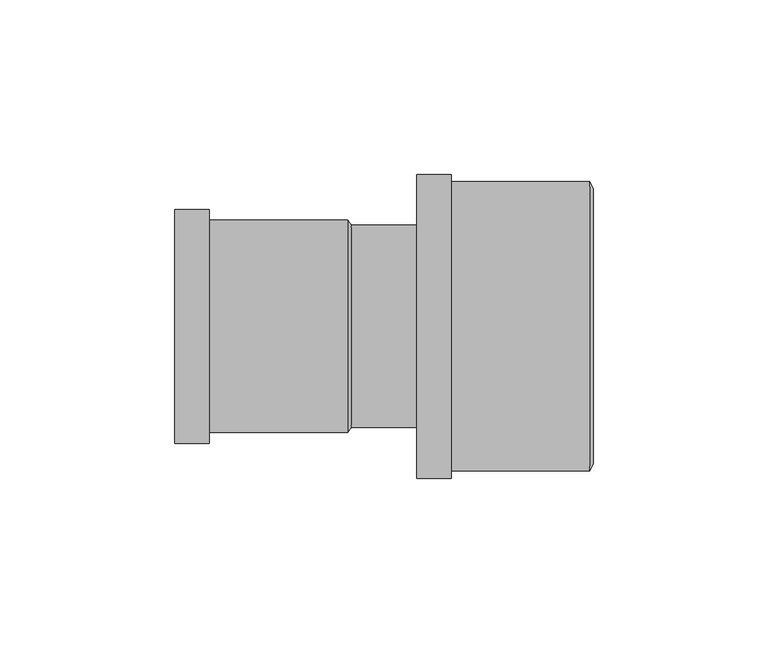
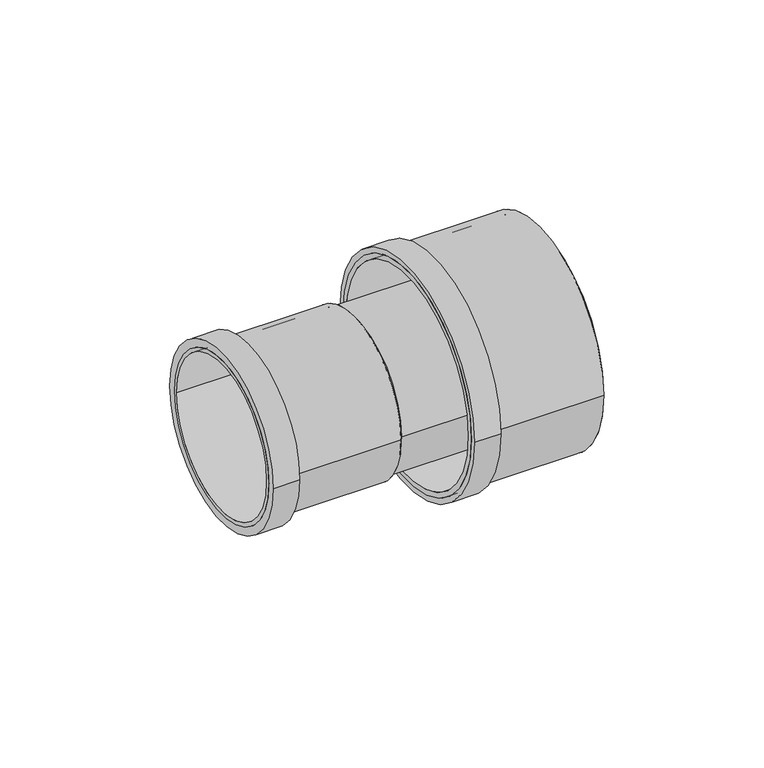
"""IFC4 building model written with IfcOpenShell, lengths in millimetres: pipe fitting geometry, Superdrain SKAM Single socket : Superdrain SKAM Single socket."""

import ifcopenshell
import ifcopenshell.guid

model = None  # the IFC model being written
_history = None  # IfcOwnerHistory: only IFC2X3 demands one
_inside = {}  # id of a spatial element -> (the spatial element, [elements in it])
_under = {}  # id of a project, library or spatial element -> (it, [spatial elements below it])
_declared = {}  # id of a project -> (the project, [libraries it declares])
_typed = {}  # id of a type object -> (the type object, [elements of that type])
_made_of = {}  # id of a material, layer set ... -> (it, [elements and type objects made of it])


def new_model(schema):
    """Start an empty IFC model of exactly this schema.

    Asked for "IFC4X3", IfcOpenShell would pick the latest addendum, in which some entities
    have other attributes; the version numbers below select the first issue.
    IFC2X3 requires an IfcOwnerHistory on every rooted entity: one is made here for all.
    """
    global model, _history
    if schema == "IFC4X3":
        model = ifcopenshell.file(schema_version=(4, 3, 0, 0))
    else:
        model = ifcopenshell.file(schema=schema)
    _inside.clear()
    _under.clear()
    _declared.clear()
    _typed.clear()
    _made_of.clear()
    _history = None
    if model.schema == "IFC2X3":
        org = make("IfcOrganization", Name="unknown")
        user = make(
            "IfcPersonAndOrganization",
            ThePerson=make("IfcPerson", FamilyName="unknown"),
            TheOrganization=org,
        )
        app = make(
            "IfcApplication",
            ApplicationDeveloper=org,
            Version="unknown",
            ApplicationFullName="unknown",
            ApplicationIdentifier="unknown",
        )
        _history = make(
            "IfcOwnerHistory",
            OwningUser=user,
            OwningApplication=app,
            ChangeAction="ADDED",
            CreationDate=0,
        )
    return model


def make(cls, **values):
    """One entity of the class cls with the attributes given. An attribute that is None is left unset."""
    return model.create_entity(
        cls, **{name: value for name, value in values.items() if value is not None}
    )


def rooted(cls, **values):
    """An entity with a GlobalId (a new one), such as an element, a storey or a relation."""
    return make(cls, GlobalId=ifcopenshell.guid.new(), OwnerHistory=_history, **values)


def si_unit(unit_type, name, prefix=None):
    """IfcSIUnit, for example si_unit("LENGTHUNIT", "METRE", prefix="MILLI")."""
    return make("IfcSIUnit", UnitType=unit_type, Prefix=prefix, Name=name)


def assignment(units):
    """IfcUnitAssignment: the units of a project."""
    return None if units is None else make("IfcUnitAssignment", Units=units)


def point(xyz):
    """IfcCartesianPoint."""
    return None if xyz is None else make("IfcCartesianPoint", Coordinates=xyz)


def direction(xyz):
    """IfcDirection."""
    return None if xyz is None else make("IfcDirection", DirectionRatios=xyz)


def frame(location, z_axis=None, x_axis=None):
    """IfcAxis2Placement3D, a coordinate frame: its origin and axes. An axis left out is left unset."""
    return make(
        "IfcAxis2Placement3D",
        Location=point(location),
        Axis=direction(z_axis),
        RefDirection=direction(x_axis),
    )


def frame_2d(location, x_axis=None):
    """IfcAxis2Placement2D, a coordinate frame in the plane: its origin and x axis."""
    return make(
        "IfcAxis2Placement2D", Location=point(location), RefDirection=direction(x_axis)
    )


def origin():
    """The frame at (0, 0, 0) with its axes left unset."""
    return frame((0.0, 0.0, 0.0))


def origin_2d():
    """The frame at (0, 0) in the plane with its x axis left unset."""
    return frame_2d((0.0, 0.0))


def place(relative_to, where):
    """IfcLocalPlacement: puts the frame where relative to a parent placement (None: the world)."""
    return make(
        "IfcLocalPlacement", PlacementRelTo=relative_to, RelativePlacement=where
    )


def context(
    kind, dimensions, precision=None, world=None, true_north=None, identifier=None
):
    """IfcGeometricRepresentationContext, for example the 3D "Model" context."""
    return make(
        "IfcGeometricRepresentationContext",
        ContextIdentifier=identifier,
        ContextType=kind,
        CoordinateSpaceDimension=dimensions,
        Precision=precision,
        WorldCoordinateSystem=world,
        TrueNorth=true_north,
    )


def project(units=None, contexts=None):
    """IfcProject with its units and contexts."""
    return rooted(
        "IfcProject",
        Name="project",
        RepresentationContexts=contexts,
        UnitsInContext=assignment(units),
    )


def spatial(cls, under=None, at=None, **own):
    """A site, building, storey or space (cls), placed at a placement, below another one or the project."""
    s = rooted(cls, ObjectPlacement=at, **own)
    if under is not None:
        _under.setdefault(under.id(), (under, []))[1].append(s)
    return s


def polyline(points):
    """IfcPolyline through the points."""
    return make("IfcPolyline", Points=[point(p) for p in points])


def circle_curve(where, radius):
    """IfcCircle in the frame where."""
    return make("IfcCircle", Position=where, Radius=radius)


def trimmed(basis, trim1, trim2, sense, master):
    """IfcTrimmedCurve: the piece of a basis curve between two trims."""
    return make(
        "IfcTrimmedCurve",
        BasisCurve=basis,
        Trim1=trim1,
        Trim2=trim2,
        SenseAgreement=sense,
        MasterRepresentation=master,
    )


def segment(curve, same_sense, transition):
    """IfcCompositeCurveSegment."""
    return make(
        "IfcCompositeCurveSegment",
        Transition=transition,
        SameSense=same_sense,
        ParentCurve=curve,
    )


def composite_curve(segments, self_intersect=None):
    """IfcCompositeCurve: segments joined end to end."""
    return make("IfcCompositeCurve", Segments=segments, SelfIntersect=self_intersect)


def outline(outer, holes=None, kind="AREA"):
    """IfcArbitraryClosedProfileDef: a profile drawn as a closed curve; with holes, ...WithVoids."""
    if holes is None:
        return make("IfcArbitraryClosedProfileDef", ProfileType=kind, OuterCurve=outer)
    return make(
        "IfcArbitraryProfileDefWithVoids",
        ProfileType=kind,
        OuterCurve=outer,
        InnerCurves=holes,
    )


def extrude(swept, where, along, depth):
    """IfcExtrudedAreaSolid: the profile swept, set in the frame where, extruded along a direction by depth."""
    return make(
        "IfcExtrudedAreaSolid",
        SweptArea=swept,
        Position=where,
        ExtrudedDirection=direction(along),
        Depth=depth,
    )


def shape(context_of_items, identifier, shape_type, items):
    """IfcShapeRepresentation: the items that make up one representation, for example the "Body"."""
    return make(
        "IfcShapeRepresentation",
        ContextOfItems=context_of_items,
        RepresentationIdentifier=identifier,
        RepresentationType=shape_type,
        Items=items,
    )


def source(mapping_origin, context_of_items, identifier, shape_type, items):
    """IfcRepresentationMap: a shape defined once, which mapped items show again and again."""
    return make(
        "IfcRepresentationMap",
        MappingOrigin=mapping_origin,
        MappedRepresentation=shape(context_of_items, identifier, shape_type, items),
    )


def transform(
    local_origin,
    x_axis=None,
    y_axis=None,
    z_axis=None,
    scale=None,
    scale2=None,
    scale3=None,
    uniform=True,
):
    """IfcCartesianTransformationOperator3D, or its non-uniform kind. x_axis, y_axis, z_axis: its Axis1, 2, 3."""
    if uniform:
        return make(
            "IfcCartesianTransformationOperator3D",
            Axis1=direction(x_axis),
            Axis2=direction(y_axis),
            LocalOrigin=point(local_origin),
            Scale=scale,
            Axis3=direction(z_axis),
        )
    return make(
        "IfcCartesianTransformationOperator3DnonUniform",
        Axis1=direction(x_axis),
        Axis2=direction(y_axis),
        LocalOrigin=point(local_origin),
        Scale=scale,
        Axis3=direction(z_axis),
        Scale2=scale2,
        Scale3=scale3,
    )


def mapped(mapping_source, mapping_target):
    """IfcMappedItem: shows the shape of a source again, moved by a transform."""
    return make(
        "IfcMappedItem", MappingSource=mapping_source, MappingTarget=mapping_target
    )


def made_of(thing, what):
    """Note that an element or type object is made of a material, layer set ...; save() writes the relation."""
    if what is not None:
        _made_of.setdefault(what.id(), (what, []))[1].append(thing)
    return thing


def element(
    cls,
    number,
    at=None,
    inside=None,
    cuts=None,
    type_object=None,
    material=None,
    context=None,
    identifier="Body",
    shape_type=None,
    held_by="IfcProductDefinitionShape",
    body=None,
    shapes=None,
    **own,
):
    """One element of the class cls, such as IfcWall. Its Tag is "e" and its number.

    at: its placement. inside: the storey or other place that contains it. cuts: it is an
    opening in that element (IfcRelVoidsElement). A single representation is given by context,
    identifier, shape_type and body (its items); several are given by shapes. held_by: the class
    of the entity that holds the representations. save() writes the other relations.
    """
    e = rooted(cls, Tag="e%d" % number, ObjectPlacement=at, **own)
    if body is not None:
        shapes = [shape(context, identifier, shape_type, body)]
    if shapes is not None:
        e.Representation = make(held_by, Representations=shapes)
    if inside is not None:
        _inside.setdefault(inside.id(), (inside, []))[1].append(e)
    if cuts is not None:
        rooted(
            "IfcRelVoidsElement", RelatingBuildingElement=cuts, RelatedOpeningElement=e
        )
    if type_object is not None:
        _typed.setdefault(type_object.id(), (type_object, []))[1].append(e)
    return made_of(e, material)


def aggregate(whole, parts):
    """IfcRelAggregates: a whole, such as a stair, and the parts it consists of."""
    return rooted("IfcRelAggregates", RelatingObject=whole, RelatedObjects=parts)


def save(model, path):
    """Write the relations noted so far, then the file.

    IfcRelAggregates (storeys below a building ...), IfcRelContainedInSpatialStructure (elements
    in a storey), IfcRelDefinesByType, IfcRelAssociatesMaterial and IfcRelDeclares: one each for
    every whole, place, type object, material and project.
    """
    for whole, parts in _under.values():
        aggregate(whole, parts)
    for where, things in _inside.values():
        rooted(
            "IfcRelContainedInSpatialStructure",
            RelatedElements=things,
            RelatingStructure=where,
        )
    for kind, things in _typed.values():
        rooted("IfcRelDefinesByType", RelatedObjects=things, RelatingType=kind)
    for what, things in _made_of.values():
        rooted("IfcRelAssociatesMaterial", RelatedObjects=things, RelatingMaterial=what)
    for by, libraries in _declared.values():
        rooted("IfcRelDeclares", RelatingContext=by, RelatedDefinitions=libraries)
    model.write(path)


def plane_surface(at):
    """IfcPlane: the flat surface through the origin of the frame at, square to its z axis."""
    return make("IfcPlane", Position=at)


def revolved_surface(curve, axis_point, axis_direction):
    """IfcSurfaceOfRevolution: the curve turned about the line through axis_point along axis_direction."""
    return make(
        "IfcSurfaceOfRevolution",
        SweptCurve=make("IfcArbitraryOpenProfileDef", ProfileType="CURVE", Curve=curve),
        AxisPosition=make("IfcAxis1Placement", Location=point(axis_point), Axis=direction(axis_direction)),
    )


def advanced_brep(points, edges, surfaces, faces):
    """IfcAdvancedBrep: a solid bounded by faces that lie on surfaces and meet in shared edges.

    An edge is (start, end): straight between two places in points (the first is 0);
    or (start, end, curve); or (start, end, curve, False) where it runs against its curve.
    A face is (place in surfaces, loops), or (place, loops, False) where it looks against
    its surface's normal. A loop lists edges by number (the first is 1), with a minus sign
    where the edge is run from its end to its start. The first loop is the outer one.
    """
    corners = [point(p) for p in points]
    vertices = [make("IfcVertexPoint", VertexGeometry=c) for c in corners]
    made = []
    for start, end, *more in edges:
        made.append(
            make(
                "IfcEdgeCurve",
                EdgeStart=vertices[start],
                EdgeEnd=vertices[end],
                EdgeGeometry=more[0] if more else make("IfcPolyline", Points=[corners[start], corners[end]]),
                SameSense=more[1] if len(more) > 1 else True,
            )
        )
    hull = []
    for where, loops, *sense in faces:
        bounds = []
        for j, loop in enumerate(loops):
            ring = [make("IfcOrientedEdge", EdgeElement=made[abs(k) - 1], Orientation=k > 0) for k in loop]
            bounds.append(
                make(
                    "IfcFaceOuterBound" if j == 0 else "IfcFaceBound",
                    Bound=make("IfcEdgeLoop", EdgeList=ring),
                    Orientation=True,
                )
            )
        hull.append(make("IfcAdvancedFace", Bounds=bounds, FaceSurface=surfaces[where], SameSense=sense[0] if sense else True))
    return make("IfcAdvancedBrep", Outer=make("IfcClosedShell", CfsFaces=hull))


def pipe_fitting_8de20daa(model_context):
    return source(origin(), model_context, "Body", "SolidModel", [
        extrude(outline(composite_curve([segment(trimmed(circle_curve(origin_2d(), 41.475), [point((-41.475, 0.0))], [point((41.475, 0.0))], False, "CARTESIAN"), True, "CONTINUOUS"), segment(trimmed(circle_curve(origin_2d(), 41.475), [point((41.475, 0.0))], [point((-41.475, 0.0))], False, "CARTESIAN"), True, "CONTINUOUS")], self_intersect=False), holes=[composite_curve([segment(trimmed(circle_curve(origin_2d(), 39.5), [point((-39.5, 0.0))], [point((39.5, 0.0))], True, "CARTESIAN"), True, "CONTINUOUS"), segment(trimmed(circle_curve(origin_2d(), 39.5), [point((39.5, 0.0))], [point((-39.5, 0.0))], True, "CARTESIAN"), True, "CONTINUOUS")], self_intersect=False)]), frame((14.4, 0.0, 0.0), z_axis=(1.0, 0.0, 0.0), x_axis=(0.0, 1.0, 0.0)), (0.0, 0.0, 1.0), 49.6),
        extrude(outline(composite_curve([segment(trimmed(circle_curve(origin_2d(), 43.54875), [point((-43.54875, 0.0))], [point((43.54875, 0.0))], False, "CARTESIAN"), True, "CONTINUOUS"), segment(trimmed(circle_curve(origin_2d(), 43.54875), [point((43.54875, 0.0))], [point((-43.54875, 0.0))], False, "CARTESIAN"), True, "CONTINUOUS")], self_intersect=False), holes=[composite_curve([segment(trimmed(circle_curve(origin_2d(), 39.5), [point((-39.5, 0.0))], [point((39.5, 0.0))], True, "CARTESIAN"), True, "CONTINUOUS"), segment(trimmed(circle_curve(origin_2d(), 39.5), [point((39.5, 0.0))], [point((-39.5, 0.0))], True, "CARTESIAN"), True, "CONTINUOUS")], self_intersect=False)]), frame((14.4, 0.0, 0.0), z_axis=(1.0, 0.0, 0.0), x_axis=(0.0, 1.0, 0.0)), (0.0, 0.0, 1.0), 9.92),
        advanced_brep(
        [(65.0, -39.5, 0.0), (65.0, 39.5, 0.0), (64.0, -41.475, 0.0), (64.0, 41.475, 0.0)],
        [
            (0, 1, circle_curve(frame((65.0, 0.0, 0.0), z_axis=(1.0, 0.0, 0.0), x_axis=(0.0, -1.0, 0.0)), 39.5)),
            (1, 0, circle_curve(frame((65.0, 0.0, 0.0), z_axis=(1.0, 0.0, 0.0), x_axis=(0.0, 1.0, 0.0)), 39.5)),
            (2, 3, circle_curve(frame((64.0, 0.0, 0.0), z_axis=(-1.0, 0.0, 0.0), x_axis=(0.0, 1.0, 0.0)), 41.475)),
            (3, 2, circle_curve(frame((64.0, 0.0, 0.0), z_axis=(-1.0, 0.0, 0.0), x_axis=(0.0, -1.0, 0.0)), 41.475)),
            (3, 1),
            (0, 2),
        ],
        [
            plane_surface(frame((65.0, 0.0, 0.0), z_axis=(1.0, 0.0, 0.0), x_axis=(0.0, 0.0, -1.0))),
            plane_surface(frame((64.0, 0.0, 0.0), z_axis=(-1.0, 0.0, 0.0), x_axis=(0.0, 0.0, -1.0))),
            revolved_surface(polyline([(65.0, -39.5, 0.0), (64.0, -41.475, 0.0)]), (85.0, 0.0, 0.0), (-1.0, 0.0, 0.0)),
            revolved_surface(polyline([(65.0, 39.5, 0.0), (64.0, 41.475, 0.0)]), (85.0, 0.0, 0.0), (-1.0, 0.0, 0.0)),
        ],
        [
            (0, [[1, 2]]),
            (1, [[3, 4]]),
            (2, [[-4, 5, -1, 6]]),
            (3, [[-3, -6, -2, -5]]),
        ],
    ),
        extrude(outline(composite_curve([segment(trimmed(circle_curve(origin_2d(), 30.45), [point((-30.45, 0.0))], [point((30.45, 0.0))], False, "CARTESIAN"), True, "CONTINUOUS"), segment(trimmed(circle_curve(origin_2d(), 30.45), [point((30.45, 0.0))], [point((-30.45, 0.0))], False, "CARTESIAN"), True, "CONTINUOUS")], self_intersect=False), holes=[composite_curve([segment(trimmed(circle_curve(origin_2d(), 29.0), [point((-29.0, 0.0))], [point((29.0, 0.0))], True, "CARTESIAN"), True, "CONTINUOUS"), segment(trimmed(circle_curve(origin_2d(), 29.0), [point((29.0, 0.0))], [point((-29.0, 0.0))], True, "CARTESIAN"), True, "CONTINUOUS")], self_intersect=False)]), frame((-55.0, 0.0, 0.0), z_axis=(1.0, 0.0, 0.0), x_axis=(0.0, 1.0, 0.0)), (0.0, 0.0, 1.0), 49.6),
        extrude(outline(composite_curve([segment(trimmed(circle_curve(origin_2d(), 33.495), [point((-33.495, 0.0))], [point((33.495, 0.0))], False, "CARTESIAN"), True, "CONTINUOUS"), segment(trimmed(circle_curve(origin_2d(), 33.495), [point((33.495, 0.0))], [point((-33.495, 0.0))], False, "CARTESIAN"), True, "CONTINUOUS")], self_intersect=False), holes=[composite_curve([segment(trimmed(circle_curve(origin_2d(), 29.0), [point((-29.0, 0.0))], [point((29.0, 0.0))], True, "CARTESIAN"), True, "CONTINUOUS"), segment(trimmed(circle_curve(origin_2d(), 29.0), [point((29.0, 0.0))], [point((-29.0, 0.0))], True, "CARTESIAN"), True, "CONTINUOUS")], self_intersect=False)]), frame((-55.0, 0.0, 0.0), z_axis=(1.0, 0.0, 0.0), x_axis=(0.0, 1.0, 0.0)), (0.0, 0.0, 1.0), 9.92),
        advanced_brep(
        [(-4.4, -29.0, 0.0), (-4.4, 29.0, 0.0), (-5.4, -30.45, 0.0), (-5.4, 30.45, 0.0)],
        [
            (0, 1, circle_curve(frame((-4.4, 0.0, 0.0), z_axis=(1.0, 0.0, 0.0), x_axis=(0.0, -1.0, 0.0)), 29.0)),
            (1, 0, circle_curve(frame((-4.4, 0.0, 0.0), z_axis=(1.0, 0.0, 0.0), x_axis=(0.0, 1.0, 0.0)), 29.0)),
            (2, 3, circle_curve(frame((-5.4, 0.0, 0.0), z_axis=(-1.0, 0.0, 0.0), x_axis=(0.0, 1.0, 0.0)), 30.45)),
            (3, 2, circle_curve(frame((-5.4, 0.0, 0.0), z_axis=(-1.0, 0.0, 0.0), x_axis=(0.0, -1.0, 0.0)), 30.45)),
            (3, 1),
            (0, 2),
        ],
        [
            plane_surface(frame((-4.4, 0.0, 0.0), z_axis=(1.0, 0.0, 0.0), x_axis=(0.0, 0.0, -1.0))),
            plane_surface(frame((-5.4, 0.0, 0.0), z_axis=(-1.0, 0.0, 0.0), x_axis=(0.0, 0.0, -1.0))),
            revolved_surface(polyline([(-4.4, -28.999999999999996, 0.0), (-5.4, -30.45, 0.0)]), (15.6, 0.0, 0.0), (-1.0, 0.0, 0.0)),
            revolved_surface(polyline([(-4.4, 28.999999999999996, 0.0), (-5.4, 30.45, 0.0)]), (15.6, 0.0, 0.0), (-1.0, 0.0, 0.0)),
        ],
        [
            (0, [[1, 2]]),
            (1, [[3, 4]]),
            (2, [[-4, 5, -1, 6]]),
            (3, [[-3, -6, -2, -5]]),
        ],
    ),
        extrude(outline(composite_curve([segment(trimmed(circle_curve(origin_2d(), 29.0), [point((-29.0, 0.0))], [point((29.0, 0.0))], False, "CARTESIAN"), True, "CONTINUOUS"), segment(trimmed(circle_curve(origin_2d(), 29.0), [point((29.0, 0.0))], [point((-29.0, 0.0))], False, "CARTESIAN"), True, "CONTINUOUS")], self_intersect=False)), frame((-5.4, 0.0, 0.0), z_axis=(1.0, 0.0, 0.0), x_axis=(0.0, 1.0, 0.0)), (0.0, 0.0, 1.0), 69.4),
    ])


if __name__ == "__main__":
    model = new_model("IFC4")
    model_context = context("Model", 3, world=origin())
    ifc_project = project(units=[si_unit("LENGTHUNIT", "METRE", prefix="MILLI")], contexts=[model_context])
    site = spatial("IfcSite", under=ifc_project)
    building = spatial("IfcBuilding", under=site)
    placement = place(None, origin())
    pipe_fitting_shape = pipe_fitting_8de20daa(model_context)
    element("IfcPipeFitting", 1, ObjectType="Superdrain SKAM Single socket : Superdrain SKAM Single socket", at=placement, inside=building, context=model_context, shape_type="MappedRepresentation", body=[
        mapped(pipe_fitting_shape, transform((0.0, 0.0, 0.0), x_axis=(1.0, 0.0, 0.0), y_axis=(0.0, 1.0, 0.0), z_axis=(0.0, 0.0, 1.0))),
    ])
    save(model, "model.ifc")
